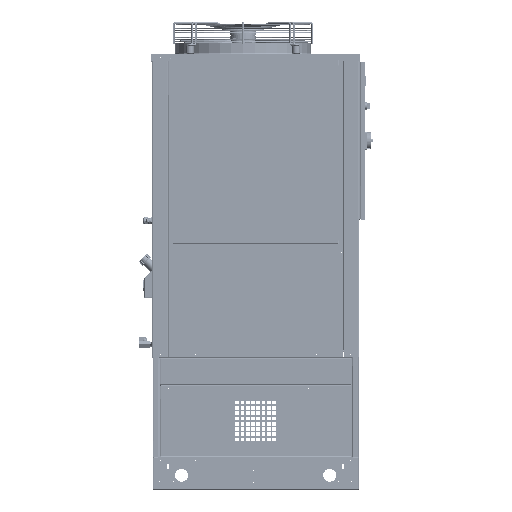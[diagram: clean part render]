
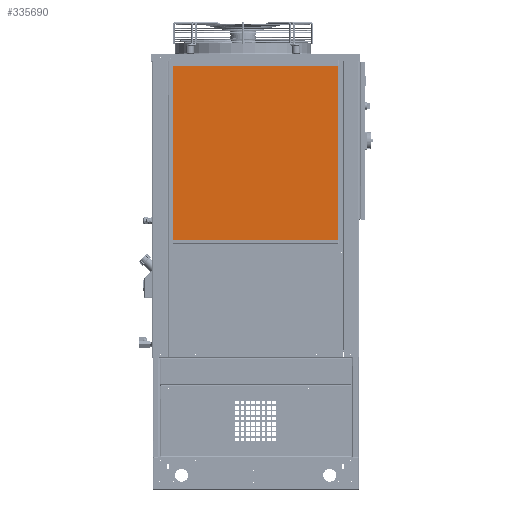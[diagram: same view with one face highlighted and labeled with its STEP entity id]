
A CAD part, top view. The second image highlights one B-rep face of the part: STEP entity #335690.
In plain terms, the highlighted planar face has unit normal (0, 0, 1).
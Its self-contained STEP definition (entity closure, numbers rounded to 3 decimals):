
#8138 = CARTESIAN_POINT ( 'NONE',  ( -313., -328., 2. ) ) ;
#13324 = CARTESIAN_POINT ( 'NONE',  ( 301., -340., 2. ) ) ;
#13614 = DIRECTION ( 'NONE',  ( 0., 0., 1. ) ) ;
#39792 = CARTESIAN_POINT ( 'NONE',  ( 313., 328., 2. ) ) ;
#40056 = VECTOR ( 'NONE', #606355, 1000. ) ;
#42538 = DIRECTION ( 'NONE',  ( 0., 0., 1. ) ) ;
#43320 = ORIENTED_EDGE ( 'NONE', *, *, #99807, .T. ) ;
#99807 = EDGE_CURVE ( 'NONE', #316540, #464292, #577507, .T. ) ;
#108750 = CIRCLE ( 'NONE', #468545, 12. ) ;
#112827 = CARTESIAN_POINT ( 'NONE',  ( -301., 340., 2. ) ) ;
#115458 = CIRCLE ( 'NONE', #310748, 12. ) ;
#129421 = ORIENTED_EDGE ( 'NONE', *, *, #487856, .T. ) ;
#135825 = ORIENTED_EDGE ( 'NONE', *, *, #511976, .T. ) ;
#158408 = AXIS2_PLACEMENT_3D ( 'NONE', #479448, #373213, #569609 ) ;
#158994 = LINE ( 'NONE', #409928, #40056 ) ;
#175966 = VERTEX_POINT ( 'NONE', #8138 ) ;
#179409 = DIRECTION ( 'NONE',  ( 0., 0., 1. ) ) ;
#179805 = LINE ( 'NONE', #279557, #350631 ) ;
#214512 = VECTOR ( 'NONE', #371332, 1000. ) ;
#229304 = AXIS2_PLACEMENT_3D ( 'NONE', #372486, #179409, #614091 ) ;
#234476 = DIRECTION ( 'NONE',  ( 0., 1., 0. ) ) ;
#269341 = CARTESIAN_POINT ( 'NONE',  ( 313., -328., 2. ) ) ;
#279127 = AXIS2_PLACEMENT_3D ( 'NONE', #364272, #13614, #557434 ) ;
#279557 = CARTESIAN_POINT ( 'NONE',  ( 313., -328., 2. ) ) ;
#281036 = EDGE_CURVE ( 'NONE', #422351, #465428, #474367, .T. ) ;
#283084 = PLANE ( 'NONE',  #158408 ) ;
#284645 = CARTESIAN_POINT ( 'NONE',  ( -301., -340., 2. ) ) ;
#293585 = CARTESIAN_POINT ( 'NONE',  ( -301., -328., 2. ) ) ;
#301487 = CIRCLE ( 'NONE', #229304, 12. ) ;
#310748 = AXIS2_PLACEMENT_3D ( 'NONE', #332286, #42538, #522313 ) ;
#316540 = VERTEX_POINT ( 'NONE', #476649 ) ;
#331279 = FACE_OUTER_BOUND ( 'NONE', #484501, .T. ) ;
#332286 = CARTESIAN_POINT ( 'NONE',  ( 301., -328., 2. ) ) ;
#333875 = ORIENTED_EDGE ( 'NONE', *, *, #428343, .T. ) ;
#335690 = ADVANCED_FACE ( 'NONE', ( #331279 ), #283084, .T. ) ;
#340683 = CIRCLE ( 'NONE', #279127, 12. ) ;
#344960 = VERTEX_POINT ( 'NONE', #269341 ) ;
#350631 = VECTOR ( 'NONE', #234476, 1000. ) ;
#364272 = CARTESIAN_POINT ( 'NONE',  ( -301., 328., 2. ) ) ;
#371332 = DIRECTION ( 'NONE',  ( -1., 0., 0. ) ) ;
#372486 = CARTESIAN_POINT ( 'NONE',  ( 301., 328., 2. ) ) ;
#373213 = DIRECTION ( 'NONE',  ( 0., 0., 1. ) ) ;
#375112 = EDGE_CURVE ( 'NONE', #411452, #422351, #301487, .T. ) ;
#389594 = EDGE_CURVE ( 'NONE', #467241, #175966, #158994, .T. ) ;
#401804 = ORIENTED_EDGE ( 'NONE', *, *, #389594, .T. ) ;
#409928 = CARTESIAN_POINT ( 'NONE',  ( -313., -328., 2. ) ) ;
#411452 = VERTEX_POINT ( 'NONE', #39792 ) ;
#420708 = ORIENTED_EDGE ( 'NONE', *, *, #561986, .T. ) ;
#422351 = VERTEX_POINT ( 'NONE', #596613 ) ;
#428343 = EDGE_CURVE ( 'NONE', #465428, #467241, #340683, .T. ) ;
#428922 = DIRECTION ( 'NONE',  ( 0., 0., 1. ) ) ;
#464292 = VERTEX_POINT ( 'NONE', #13324 ) ;
#465428 = VERTEX_POINT ( 'NONE', #112827 ) ;
#467241 = VERTEX_POINT ( 'NONE', #481838 ) ;
#468545 = AXIS2_PLACEMENT_3D ( 'NONE', #293585, #428922, #489924 ) ;
#474367 = LINE ( 'NONE', #574109, #214512 ) ;
#476649 = CARTESIAN_POINT ( 'NONE',  ( -301., -340., 2. ) ) ;
#479448 = CARTESIAN_POINT ( 'NONE',  ( -301., 328., 2. ) ) ;
#481002 = DIRECTION ( 'NONE',  ( 1., 0., 0. ) ) ;
#481838 = CARTESIAN_POINT ( 'NONE',  ( -313., 328., 2. ) ) ;
#484501 = EDGE_LOOP ( 'NONE', ( #333875, #401804, #129421, #43320, #135825, #420708, #530404, #586655 ) ) ;
#487856 = EDGE_CURVE ( 'NONE', #175966, #316540, #108750, .T. ) ;
#489924 = DIRECTION ( 'NONE',  ( 1., 0., 0. ) ) ;
#511976 = EDGE_CURVE ( 'NONE', #464292, #344960, #115458, .T. ) ;
#522313 = DIRECTION ( 'NONE',  ( 1., 0., 0. ) ) ;
#530404 = ORIENTED_EDGE ( 'NONE', *, *, #375112, .T. ) ;
#531633 = VECTOR ( 'NONE', #481002, 1000. ) ;
#557434 = DIRECTION ( 'NONE',  ( 1., 0., 0. ) ) ;
#561986 = EDGE_CURVE ( 'NONE', #344960, #411452, #179805, .T. ) ;
#569609 = DIRECTION ( 'NONE',  ( 1., 0., 0. ) ) ;
#574109 = CARTESIAN_POINT ( 'NONE',  ( -301., 340., 2. ) ) ;
#577507 = LINE ( 'NONE', #284645, #531633 ) ;
#586655 = ORIENTED_EDGE ( 'NONE', *, *, #281036, .T. ) ;
#596613 = CARTESIAN_POINT ( 'NONE',  ( 301., 340., 2. ) ) ;
#606355 = DIRECTION ( 'NONE',  ( 0., -1., 0. ) ) ;
#614091 = DIRECTION ( 'NONE',  ( 1., 0., 0. ) ) ;
